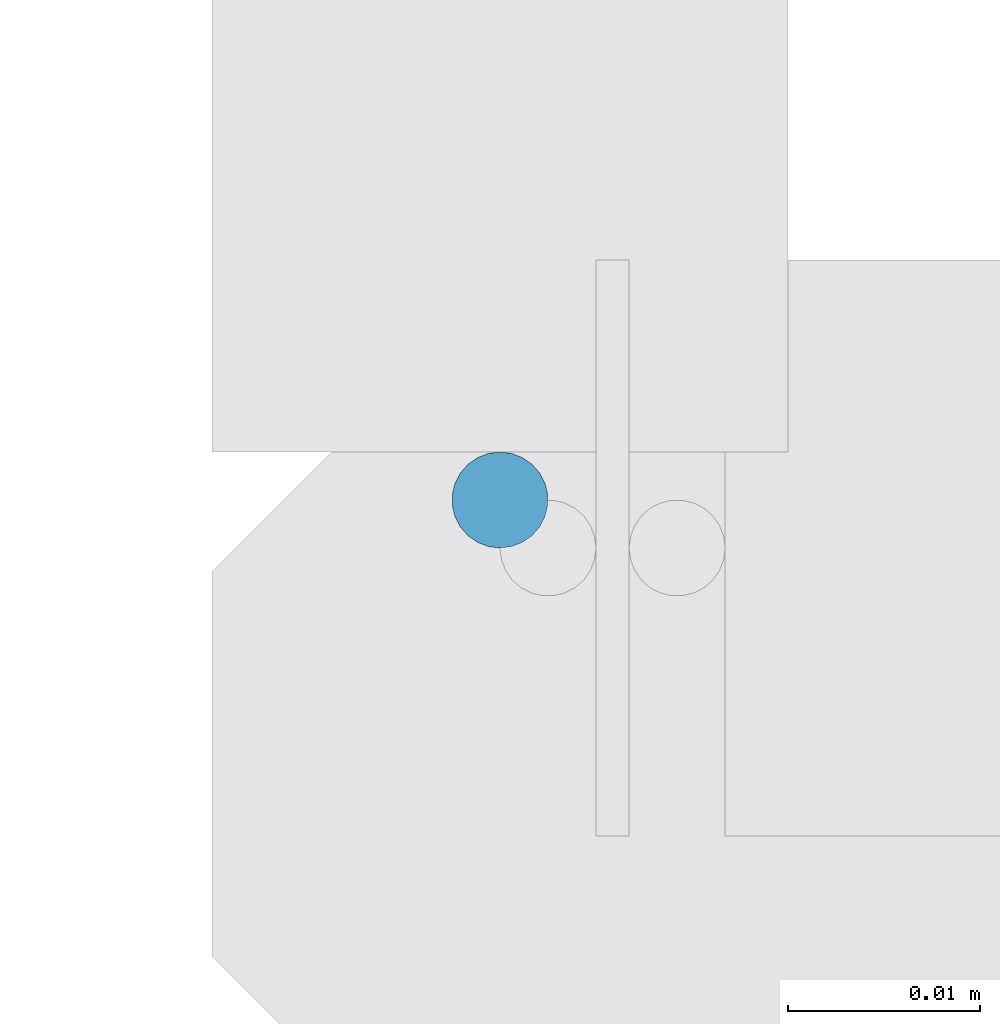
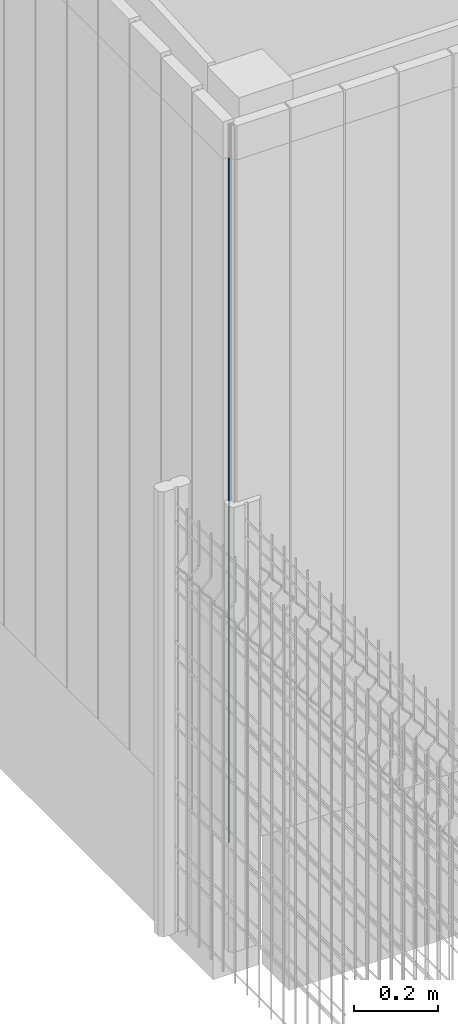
# One storey, part 2 of 81: 1 member, 1 element without a shape of its own.
"""IFC2X3 building model written with IfcOpenShell, lengths in metres."""

import ifcopenshell
import ifcopenshell.guid

model = None  # the IFC model being written
_history = None  # IfcOwnerHistory: only IFC2X3 demands one
_inside = {}  # id of a spatial element -> (the spatial element, [elements in it])
_under = {}  # id of a project, library or spatial element -> (it, [spatial elements below it])
_declared = {}  # id of a project -> (the project, [libraries it declares])
_typed = {}  # id of a type object -> (the type object, [elements of that type])
_made_of = {}  # id of a material, layer set ... -> (it, [elements and type objects made of it])


def new_model(schema):
    """Start an empty IFC model of exactly this schema.

    Asked for "IFC4X3", IfcOpenShell would pick the latest addendum, in which some entities
    have other attributes; the version numbers below select the first issue.
    IFC2X3 requires an IfcOwnerHistory on every rooted entity: one is made here for all.
    """
    global model, _history
    if schema == "IFC4X3":
        model = ifcopenshell.file(schema_version=(4, 3, 0, 0))
    else:
        model = ifcopenshell.file(schema=schema)
    _inside.clear()
    _under.clear()
    _declared.clear()
    _typed.clear()
    _made_of.clear()
    _history = None
    if model.schema == "IFC2X3":
        org = make("IfcOrganization", Name="unknown")
        user = make(
            "IfcPersonAndOrganization",
            ThePerson=make("IfcPerson", FamilyName="unknown"),
            TheOrganization=org,
        )
        app = make(
            "IfcApplication",
            ApplicationDeveloper=org,
            Version="unknown",
            ApplicationFullName="unknown",
            ApplicationIdentifier="unknown",
        )
        _history = make(
            "IfcOwnerHistory",
            OwningUser=user,
            OwningApplication=app,
            ChangeAction="ADDED",
            CreationDate=0,
        )
    return model


def make(cls, **values):
    """One entity of the class cls with the attributes given. An attribute that is None is left unset."""
    return model.create_entity(
        cls, **{name: value for name, value in values.items() if value is not None}
    )


def entity(cls, *values):
    """Any entity or typed value of the class cls, its attributes in the order of the schema. None: left unset."""
    e = model.create_entity(cls)
    for i, value in enumerate(values):
        if value is not None:
            e[i] = value
    return e


def rooted(cls, **values):
    """An entity with a GlobalId (a new one), such as an element, a storey or a relation."""
    return make(cls, GlobalId=ifcopenshell.guid.new(), OwnerHistory=_history, **values)


def si_unit(unit_type, name, prefix=None):
    """IfcSIUnit, for example si_unit("LENGTHUNIT", "METRE", prefix="MILLI")."""
    return make("IfcSIUnit", UnitType=unit_type, Prefix=prefix, Name=name)


def converted_unit(unit_type, name, factor, base, dimensions=None, offset=None):
    """IfcConversionBasedUnit, such as the inch: factor (a typed value) times the base unit."""
    return make(
        "IfcConversionBasedUnit"
        if offset is None
        else "IfcConversionBasedUnitWithOffset",
        ConversionOffset=offset,
        Dimensions=None
        if dimensions is None
        else entity("IfcDimensionalExponents", *dimensions),
        UnitType=unit_type,
        Name=name,
        ConversionFactor=make(
            "IfcMeasureWithUnit", ValueComponent=factor, UnitComponent=base
        ),
    )


def derived_unit(unit_type, elements):
    """IfcDerivedUnit: a product of units, each with its exponent."""
    return make(
        "IfcDerivedUnit",
        Elements=[
            make("IfcDerivedUnitElement", Unit=unit, Exponent=power)
            for unit, power in elements
        ],
        UnitType=unit_type,
    )


def assignment(units):
    """IfcUnitAssignment: the units of a project."""
    return None if units is None else make("IfcUnitAssignment", Units=units)


def point(xyz):
    """IfcCartesianPoint."""
    return None if xyz is None else make("IfcCartesianPoint", Coordinates=xyz)


def direction(xyz):
    """IfcDirection."""
    return None if xyz is None else make("IfcDirection", DirectionRatios=xyz)


def frame(location, z_axis=None, x_axis=None):
    """IfcAxis2Placement3D, a coordinate frame: its origin and axes. An axis left out is left unset."""
    return make(
        "IfcAxis2Placement3D",
        Location=point(location),
        Axis=direction(z_axis),
        RefDirection=direction(x_axis),
    )


def frame_2d(location, x_axis=None):
    """IfcAxis2Placement2D, a coordinate frame in the plane: its origin and x axis."""
    return make(
        "IfcAxis2Placement2D", Location=point(location), RefDirection=direction(x_axis)
    )


def origin():
    """The frame at (0, 0, 0) with its axes left unset."""
    return frame((0.0, 0.0, 0.0))


def place(relative_to, where):
    """IfcLocalPlacement: puts the frame where relative to a parent placement (None: the world)."""
    return make(
        "IfcLocalPlacement", PlacementRelTo=relative_to, RelativePlacement=where
    )


def context(
    kind, dimensions, precision=None, world=None, true_north=None, identifier=None
):
    """IfcGeometricRepresentationContext, for example the 3D "Model" context."""
    return make(
        "IfcGeometricRepresentationContext",
        ContextIdentifier=identifier,
        ContextType=kind,
        CoordinateSpaceDimension=dimensions,
        Precision=precision,
        WorldCoordinateSystem=world,
        TrueNorth=true_north,
    )


def subcontext(parent, identifier, kind, view, scale=None):
    """IfcGeometricRepresentationSubContext, for example "Body" below "Model"."""
    return make(
        "IfcGeometricRepresentationSubContext",
        ContextIdentifier=identifier,
        ContextType=kind,
        ParentContext=parent,
        TargetScale=scale,
        TargetView=view,
    )


def project(units=None, contexts=None):
    """IfcProject with its units and contexts."""
    return rooted(
        "IfcProject",
        Name="project",
        RepresentationContexts=contexts,
        UnitsInContext=assignment(units),
    )


def spatial(cls, under=None, at=None, **own):
    """A site, building, storey or space (cls), placed at a placement, below another one or the project."""
    s = rooted(cls, ObjectPlacement=at, **own)
    if under is not None:
        _under.setdefault(under.id(), (under, []))[1].append(s)
    return s


def profile(cls, at=None, kind="AREA", **sizes):
    """A parametric profile (cls). Its sizes go by their IFC names, for example OverallWidth=200.0."""
    return make(cls, ProfileType=kind, Position=at, **sizes)


def circle(**sizes):
    """IfcCircleProfileDef."""
    return profile("IfcCircleProfileDef", **sizes)


def extrude(swept, where, along, depth):
    """IfcExtrudedAreaSolid: the profile swept, set in the frame where, extruded along a direction by depth."""
    return make(
        "IfcExtrudedAreaSolid",
        SweptArea=swept,
        Position=where,
        ExtrudedDirection=direction(along),
        Depth=depth,
    )


def shape(context_of_items, identifier, shape_type, items):
    """IfcShapeRepresentation: the items that make up one representation, for example the "Body"."""
    return make(
        "IfcShapeRepresentation",
        ContextOfItems=context_of_items,
        RepresentationIdentifier=identifier,
        RepresentationType=shape_type,
        Items=items,
    )


def source(mapping_origin, context_of_items, identifier, shape_type, items):
    """IfcRepresentationMap: a shape defined once, which mapped items show again and again."""
    return make(
        "IfcRepresentationMap",
        MappingOrigin=mapping_origin,
        MappedRepresentation=shape(context_of_items, identifier, shape_type, items),
    )


def transform(
    local_origin,
    x_axis=None,
    y_axis=None,
    z_axis=None,
    scale=None,
    scale2=None,
    scale3=None,
    uniform=True,
):
    """IfcCartesianTransformationOperator3D, or its non-uniform kind. x_axis, y_axis, z_axis: its Axis1, 2, 3."""
    if uniform:
        return make(
            "IfcCartesianTransformationOperator3D",
            Axis1=direction(x_axis),
            Axis2=direction(y_axis),
            LocalOrigin=point(local_origin),
            Scale=scale,
            Axis3=direction(z_axis),
        )
    return make(
        "IfcCartesianTransformationOperator3DnonUniform",
        Axis1=direction(x_axis),
        Axis2=direction(y_axis),
        LocalOrigin=point(local_origin),
        Scale=scale,
        Axis3=direction(z_axis),
        Scale2=scale2,
        Scale3=scale3,
    )


def mapped(mapping_source, mapping_target):
    """IfcMappedItem: shows the shape of a source again, moved by a transform."""
    return make(
        "IfcMappedItem", MappingSource=mapping_source, MappingTarget=mapping_target
    )


def material(Name=None, Category=None):
    """IfcMaterial."""
    return make("IfcMaterial", Name=Name, Category=Category)


def made_of(thing, what):
    """Note that an element or type object is made of a material, layer set ...; save() writes the relation."""
    if what is not None:
        _made_of.setdefault(what.id(), (what, []))[1].append(thing)
    return thing


def type_object(cls, material=None, **own):
    """A type object (cls), such as IfcWallType, which elements share."""
    return made_of(rooted(cls, **own), material)


def type_shapes(of_type, sources):
    """Give a type object the sources (RepresentationMaps) that its elements show as mapped items."""
    of_type.RepresentationMaps = sources


def element(
    cls,
    number,
    at=None,
    inside=None,
    cuts=None,
    type_object=None,
    material=None,
    context=None,
    identifier="Body",
    shape_type=None,
    held_by="IfcProductDefinitionShape",
    body=None,
    shapes=None,
    **own,
):
    """One element of the class cls, such as IfcWall. Its Tag is "e" and its number.

    at: its placement. inside: the storey or other place that contains it. cuts: it is an
    opening in that element (IfcRelVoidsElement). A single representation is given by context,
    identifier, shape_type and body (its items); several are given by shapes. held_by: the class
    of the entity that holds the representations. save() writes the other relations.
    """
    e = rooted(cls, Tag="e%d" % number, ObjectPlacement=at, **own)
    if body is not None:
        shapes = [shape(context, identifier, shape_type, body)]
    if shapes is not None:
        e.Representation = make(held_by, Representations=shapes)
    if inside is not None:
        _inside.setdefault(inside.id(), (inside, []))[1].append(e)
    if cuts is not None:
        rooted(
            "IfcRelVoidsElement", RelatingBuildingElement=cuts, RelatedOpeningElement=e
        )
    if type_object is not None:
        _typed.setdefault(type_object.id(), (type_object, []))[1].append(e)
    return made_of(e, material)


def aggregate(whole, parts):
    """IfcRelAggregates: a whole, such as a stair, and the parts it consists of."""
    return rooted("IfcRelAggregates", RelatingObject=whole, RelatedObjects=parts)


def save(model, path):
    """Write the relations noted so far, then the file.

    IfcRelAggregates (storeys below a building ...), IfcRelContainedInSpatialStructure (elements
    in a storey), IfcRelDefinesByType, IfcRelAssociatesMaterial and IfcRelDeclares: one each for
    every whole, place, type object, material and project.
    """
    for whole, parts in _under.values():
        aggregate(whole, parts)
    for where, things in _inside.values():
        rooted(
            "IfcRelContainedInSpatialStructure",
            RelatedElements=things,
            RelatingStructure=where,
        )
    for kind, things in _typed.values():
        rooted("IfcRelDefinesByType", RelatedObjects=things, RelatingType=kind)
    for what, things in _made_of.values():
        rooted("IfcRelAssociatesMaterial", RelatedObjects=things, RelatingMaterial=what)
    for by, libraries in _declared.values():
        rooted("IfcRelDeclares", RelatingContext=by, RelatedDefinitions=libraries)
    model.write(path)


model = new_model("IFC2X3")

# Units and contexts
model_context = context("Model", 3, precision=1e-05, world=origin(), true_north=direction((6.12303176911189e-17, 1.0)))
body_context = subcontext(model_context, "Body", "Model", "MODEL_VIEW")
ifc_project = project(units=[si_unit("LENGTHUNIT", "METRE"), si_unit("AREAUNIT", "SQUARE_METRE"), si_unit("VOLUMEUNIT", "CUBIC_METRE"), converted_unit("PLANEANGLEUNIT", "DEGREE", entity("IfcRatioMeasure", 0.0174532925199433), si_unit("PLANEANGLEUNIT", "RADIAN"), dimensions=[0, 0, 0, 0, 0, 0, 0]), si_unit("MASSUNIT", "GRAM", prefix="KILO"), derived_unit("MASSDENSITYUNIT", [(si_unit("MASSUNIT", "GRAM", prefix="KILO"), 1), (si_unit("LENGTHUNIT", "METRE"), -3)]), derived_unit("MOMENTOFINERTIAUNIT", [(si_unit("LENGTHUNIT", "METRE"), 4)]), si_unit("TIMEUNIT", "SECOND"), si_unit("FREQUENCYUNIT", "HERTZ"), si_unit("THERMODYNAMICTEMPERATUREUNIT", "DEGREE_CELSIUS"), derived_unit("THERMALTRANSMITTANCEUNIT", [(si_unit("MASSUNIT", "GRAM", prefix="KILO"), 1), (si_unit("THERMODYNAMICTEMPERATUREUNIT", "KELVIN"), -1), (si_unit("TIMEUNIT", "SECOND"), -3)]), derived_unit("VOLUMETRICFLOWRATEUNIT", [(si_unit("LENGTHUNIT", "METRE"), 3), (si_unit("TIMEUNIT", "SECOND"), -1)]), si_unit("ELECTRICCURRENTUNIT", "AMPERE"), si_unit("ELECTRICVOLTAGEUNIT", "VOLT"), si_unit("POWERUNIT", "WATT"), si_unit("FORCEUNIT", "NEWTON", prefix="KILO"), si_unit("ILLUMINANCEUNIT", "LUX"), si_unit("LUMINOUSFLUXUNIT", "LUMEN"), si_unit("LUMINOUSINTENSITYUNIT", "CANDELA"), derived_unit("USERDEFINED", [(si_unit("MASSUNIT", "GRAM", prefix="KILO"), -1), (si_unit("LENGTHUNIT", "METRE"), -2), (si_unit("TIMEUNIT", "SECOND"), 3), (si_unit("LUMINOUSFLUXUNIT", "LUMEN"), 1)]), derived_unit("LINEARVELOCITYUNIT", [(si_unit("LENGTHUNIT", "METRE"), 1), (si_unit("TIMEUNIT", "SECOND"), -1)]), si_unit("PRESSUREUNIT", "PASCAL"), derived_unit("USERDEFINED", [(si_unit("LENGTHUNIT", "METRE"), -2), (si_unit("MASSUNIT", "GRAM", prefix="KILO"), 1), (si_unit("TIMEUNIT", "SECOND"), -2)]), derived_unit("LINEARFORCEUNIT", [(si_unit("MASSUNIT", "GRAM", prefix="KILO"), 1), (si_unit("LENGTHUNIT", "METRE"), 1), (si_unit("TIMEUNIT", "SECOND"), -2), (si_unit("LENGTHUNIT", "METRE"), -1)]), derived_unit("PLANARFORCEUNIT", [(si_unit("MASSUNIT", "GRAM", prefix="KILO"), 1), (si_unit("LENGTHUNIT", "METRE"), 1), (si_unit("TIMEUNIT", "SECOND"), -2), (si_unit("LENGTHUNIT", "METRE"), -2)])], contexts=[model_context])

# Site, building, storey
site_placement = place(None, origin())
site = spatial("IfcSite", under=ifc_project, at=site_placement, Name="Surface", CompositionType="ELEMENT")
building_placement = place(site_placement, origin())
building = spatial("IfcBuilding", under=site, at=building_placement, CompositionType="ELEMENT")
storey_placement = place(building_placement, origin())
storey = spatial("IfcBuildingStorey", under=building, at=storey_placement, Name="01 RDC", CompositionType="ELEMENT", Elevation=-1.94916083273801e-14)

# Curtain wall, member
curtain_wall_type = type_object("IfcCurtainWallType", Name="Mur-rideau:1m x 2m", PredefinedType="NOTDEFINED")
curtain_wall_placement = place(storey_placement, origin())
curtain_wall = element("IfcCurtainWall", 1, at=curtain_wall_placement, inside=storey, type_object=curtain_wall_type, Name="Mur-rideau:1m x 2m", ObjectType="Mur-rideau:1m x 2m")
ifc_material = material(Name="Aluminium - Vert")
member_type = type_object("IfcMemberType", Name="Meneau circulaire:R-30 mm", PredefinedType="MULLION", material=ifc_material)
shared_shape = source(origin(), body_context, "Body", "SweptSolid", [
    extrude(circle(Radius=0.0025, at=frame_2d((-5.28743715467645e-19, -3.22697451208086e-15), x_axis=(1.0, 0.0))), frame((-0.0025, 0.0, -2.0)), (0.0, 0.0, 1.0), 2.0),
])
type_shapes(member_type, [shared_shape])
member_placement = place(storey_placement, frame((5.45983615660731, -6.30971095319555, 2.3), z_axis=(0.0, 0.0, 1.0), x_axis=(0.0, -1.0, 0.0)))
member = element("IfcMember", 2, at=member_placement, type_object=member_type, material=ifc_material, Name="Meneau circulaire:R-30 mm", ObjectType="Meneau circulaire:R-30 mm", context=body_context, shape_type="MappedRepresentation", body=[
    mapped(shared_shape, transform((0.0, 0.0, 0.0), scale=1.0)),
])
aggregate(curtain_wall, [member])

save(model, "model.ifc")
